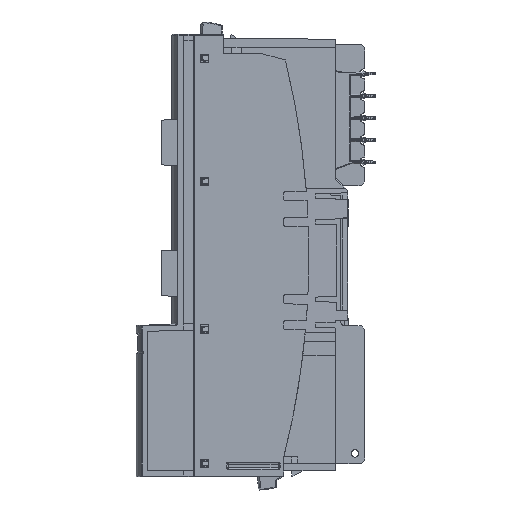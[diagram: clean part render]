
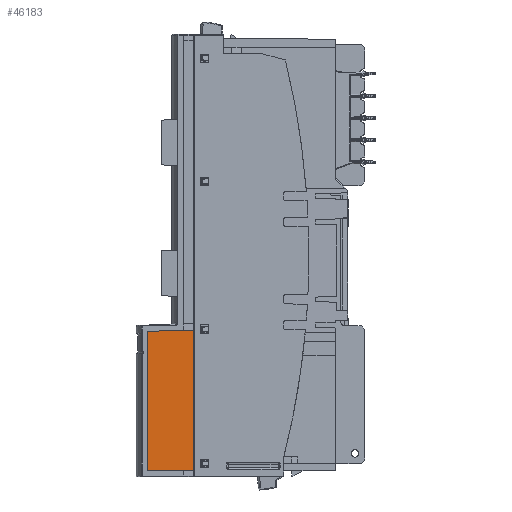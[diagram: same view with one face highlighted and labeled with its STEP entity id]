
A CAD part, front view. The second image highlights one B-rep face of the part: STEP entity #46183.
In plain terms, the highlighted planar face has unit normal (0, -1, 0) as drawn and (-1, 0, 0) by its records, which use the part's own axes.
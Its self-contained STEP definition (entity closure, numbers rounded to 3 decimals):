
#12464=DIRECTION('',(0.,1.,0.));
#12465=VECTOR('',#12464,38.089);
#12466=CARTESIAN_POINT('',(-9.05,2.711,48.));
#12467=LINE('',#12466,#12465);
#16296=DIRECTION('',(0.,-0.026,-1.));
#16297=VECTOR('',#16296,12.304);
#16298=CARTESIAN_POINT('',(-9.05,3.033,60.3));
#16299=LINE('',#16298,#16297);
#16300=DIRECTION('',(0.,0.,1.));
#16301=VECTOR('',#16300,12.3);
#16302=CARTESIAN_POINT('',(-9.05,40.8,48.));
#16303=LINE('',#16302,#16301);
#16304=DIRECTION('',(0.,1.,0.));
#16305=VECTOR('',#16304,37.767);
#16306=CARTESIAN_POINT('',(-9.05,3.033,60.3));
#16307=LINE('',#16306,#16305);
#33091=CARTESIAN_POINT('',(-9.05,3.033,60.3));
#33092=CARTESIAN_POINT('',(-9.05,40.8,60.3));
#33093=VERTEX_POINT('',#33091);
#33094=VERTEX_POINT('',#33092);
#33112=CARTESIAN_POINT('',(-9.05,40.8,48.));
#33114=VERTEX_POINT('',#33112);
#33145=CARTESIAN_POINT('',(-9.05,2.711,48.));
#33147=VERTEX_POINT('',#33145);
#46172=CARTESIAN_POINT('',(-9.05,0.,0.));
#46173=DIRECTION('',(1.,0.,0.));
#46174=DIRECTION('',(0.,0.,-1.));
#46175=AXIS2_PLACEMENT_3D('',#46172,#46173,#46174);
#46176=PLANE('',#46175);
#46177=ORIENTED_EDGE('',*,*,#46047,.T.);
#46178=ORIENTED_EDGE('',*,*,#39748,.T.);
#46179=ORIENTED_EDGE('',*,*,#46021,.T.);
#46180=ORIENTED_EDGE('',*,*,#46035,.F.);
#46181=EDGE_LOOP('',(#46177,#46178,#46179,#46180));
#46182=FACE_OUTER_BOUND('',#46181,.F.);
#46183=ADVANCED_FACE('',(#46182),#46176,.F.);
#39748=EDGE_CURVE('',#33147,#33114,#12467,.T.);
#46021=EDGE_CURVE('',#33114,#33094,#16303,.T.);
#46035=EDGE_CURVE('',#33093,#33094,#16307,.T.);
#46047=EDGE_CURVE('',#33093,#33147,#16299,.T.);
